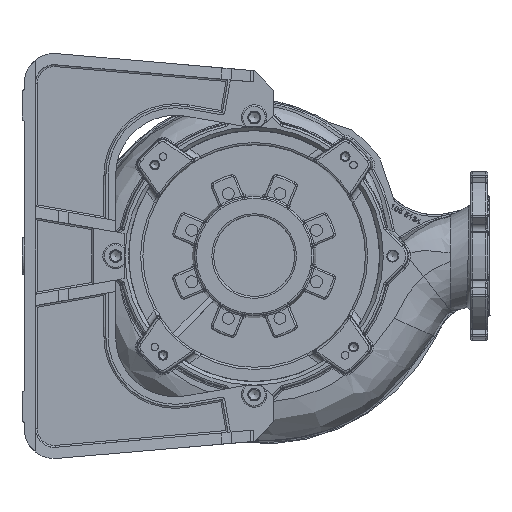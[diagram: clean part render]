
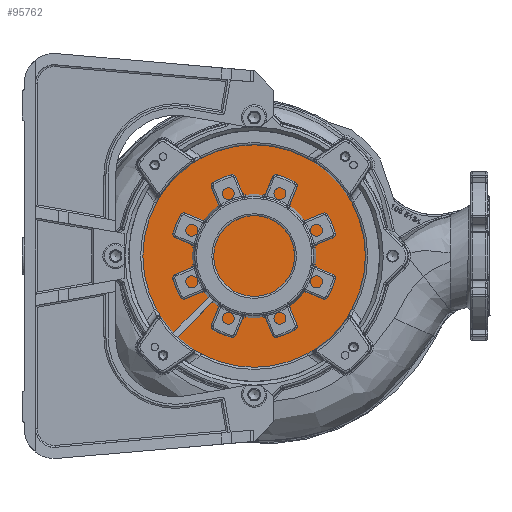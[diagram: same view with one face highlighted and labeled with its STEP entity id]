
A CAD part, left-side view. The second image highlights one B-rep face of the part: STEP entity #95762.
In plain terms, the highlighted planar face has unit normal (-1, 0, 0).
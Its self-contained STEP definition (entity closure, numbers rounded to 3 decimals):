
#4584 = DIRECTION ( 'NONE',  ( -1., 0., 0. ) ) ;
#9952 = AXIS2_PLACEMENT_3D ( 'NONE', #35356, #57665, #135117 ) ;
#35356 = CARTESIAN_POINT ( 'NONE',  ( -325.791, -174.067, -500000. ) ) ;
#57665 = DIRECTION ( 'NONE',  ( -1., 0., 0. ) ) ;
#64208 = EDGE_CURVE ( 'NONE', #70627, #70627, #87609, .T. ) ;
#70627 = VERTEX_POINT ( 'NONE', #105387 ) ;
#70773 = CARTESIAN_POINT ( 'NONE',  ( -325.791, 0., 0. ) ) ;
#71339 = AXIS2_PLACEMENT_3D ( 'NONE', #70773, #4584, #81931 ) ;
#81931 = DIRECTION ( 'NONE',  ( 0., -1., 0. ) ) ;
#87609 = CIRCLE ( 'NONE', #71339, 167.5 ) ;
#90276 = EDGE_LOOP ( 'NONE', ( #131013 ) ) ;
#95762 = ADVANCED_FACE ( 'NONE', ( #100305 ), #112941, .T. ) ;
#100305 = FACE_OUTER_BOUND ( 'NONE', #90276, .T. ) ;
#105387 = CARTESIAN_POINT ( 'NONE',  ( -325.791, -167.5, 0. ) ) ;
#112941 = PLANE ( 'NONE',  #9952 ) ;
#131013 = ORIENTED_EDGE ( 'NONE', *, *, #64208, .T. ) ;
#135117 = DIRECTION ( 'NONE',  ( 0., -1., 0. ) ) ;
